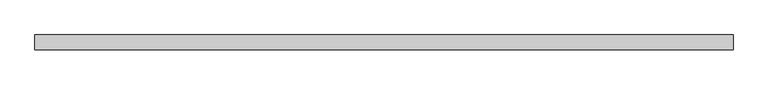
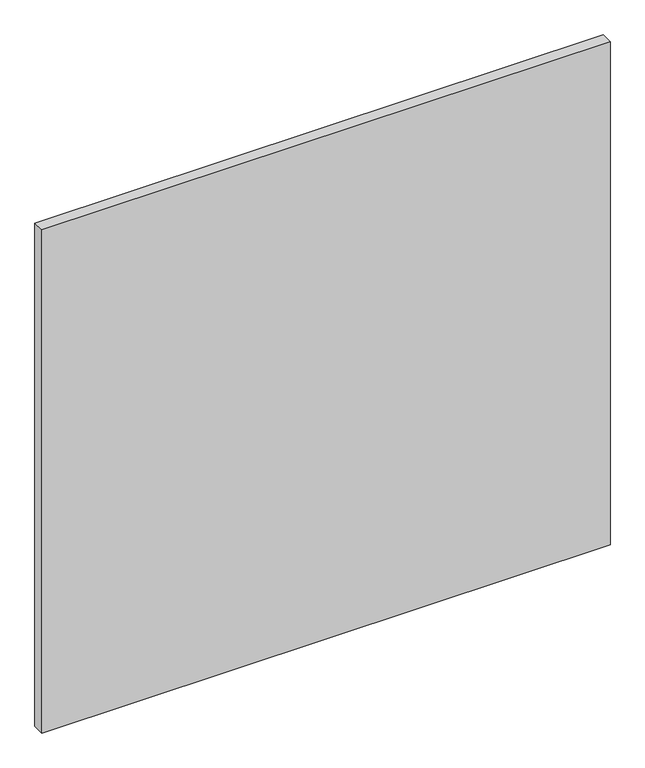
"""IFC4 building model written with IfcOpenShell, lengths in millimetres: plate geometry, システム パネル : ガラス."""

from ifc_helpers import new_model, si_unit, origin, origin_with_axes, place, context, project, spatial, polyline, outline, extrude, source, transform, mapped, element, save


def plate_1488bce0(model_context):
    return source(origin(), model_context, "Body", "SweptSolid", [
        extrude(outline(polyline([(587.5000001, -49.5), (-587.5000001, -49.5), (-587.5000001, -24.5), (587.5000001, -24.5), (587.5000001, -49.5)])), origin_with_axes(), (0.0, 0.0, 1.0), 1100.0),
    ])


if __name__ == "__main__":
    model = new_model("IFC4")
    model_context = context("Model", 3, world=origin())
    ifc_project = project(units=[si_unit("LENGTHUNIT", "METRE", prefix="MILLI")], contexts=[model_context])
    site = spatial("IfcSite", under=ifc_project)
    building = spatial("IfcBuilding", under=site)
    placement = place(None, origin())
    plate_shape = plate_1488bce0(model_context)
    element("IfcPlate", 1, ObjectType="システム パネル : ガラス", at=placement, inside=building, context=model_context, shape_type="MappedRepresentation", body=[
        mapped(plate_shape, transform((0.0, 0.0, 0.0), x_axis=(1.0, 0.0, 0.0), y_axis=(0.0, 1.0, 0.0), z_axis=(0.0, 0.0, 1.0))),
    ])
    save(model, "model.ifc")
